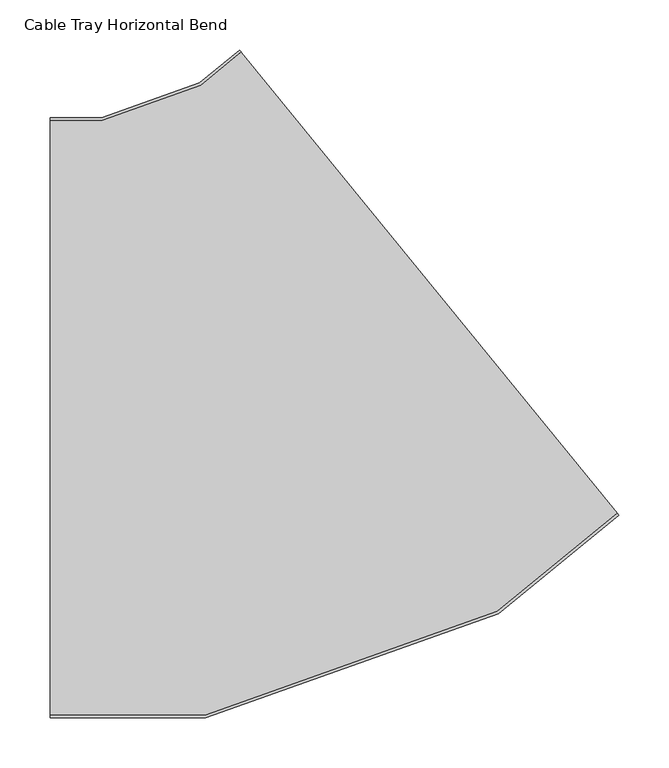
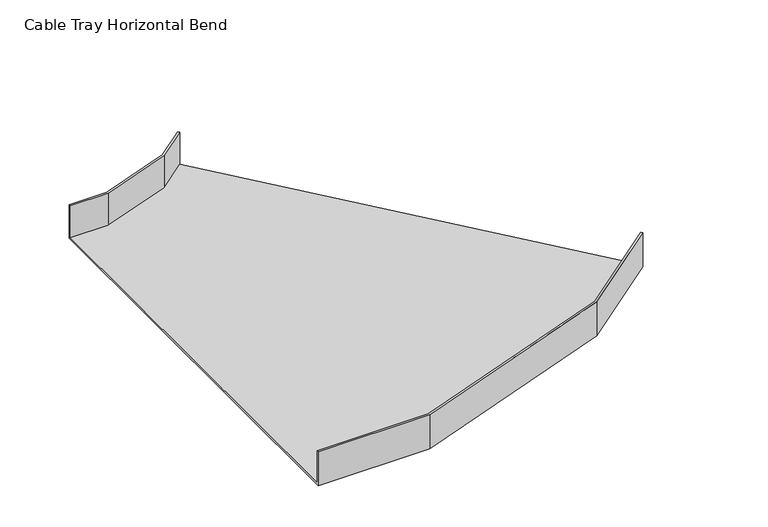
"""IFC4 building model written with IfcOpenShell, lengths in millimetres: cable carrier fitting geometry, Cable Tray Horizontal Bend : ELEC_SUB_CT_N2402."""

from ifc_helpers import new_model, si_unit, origin, place, context, project, spatial, faceted_brep, source, transform, mapped, element, save


def cable_tray_horizontal_bend_95bc2381(model_context):
    return source(origin(), model_context, "Body", "Brep", [
        faceted_brep([(-213.7355018, -300.0, -25.0), (-213.7355018, -300.0, 25.0), (-213.7355018, -297.46, 25.0), (-213.7355018, -297.46, -22.46), (-213.7355018, 297.46, -22.46), (-213.7355018, 297.46, 25.0), (-213.7355018, 300.0, 25.0), (-213.7355018, 300.0, -25.0), (355.2664502, -97.3068038, -25.0), (-24.0681844, 367.5643987, -25.0), (-24.0681844, 367.5643987, 25.0), (-22.4623345, 365.596444, 25.0), (-22.4623345, 365.596444, -22.46), (353.6606003, -95.3388491, -22.46), (353.6606003, -95.3388491, 25.0), (355.2664502, -97.3068038, 25.0), (-58.2201691, -300.0, -25.0), (-58.2201691, -300.0, 25.0), (234.7754507, -195.6273903, 25.0), (233.5096531, -193.381953, 25.0), (-58.6590679, -297.46, 25.0), (-58.6590679, -297.46, -22.46), (233.5096531, -193.381953, -22.46), (-62.9660534, 332.5454326, -22.46), (-161.4581587, 297.46, -22.46), (-161.4581587, 297.46, 25.0), (-62.9660534, 332.5454326, 25.0), (-64.231851, 334.7908699, 25.0), (-161.8970575, 300.0, 25.0), (-161.8970575, 300.0, -25.0), (-64.231851, 334.7908699, -25.0), (234.7754507, -195.6273903, -25.0)], [[[0, 1, 2, 3, 4, 5, 6, 7]], [[8, 9, 10, 11, 12, 13, 14, 15]], [[1, 0, 16, 17]], [[2, 1, 17, 18, 15, 14, 19, 20]], [[3, 2, 20, 21]], [[4, 3, 21, 22, 13, 12, 23, 24]], [[5, 4, 24, 25]], [[6, 5, 25, 26, 11, 10, 27, 28]], [[7, 6, 28, 29]], [[0, 7, 29, 30, 9, 8, 31, 16]], [[17, 16, 31, 18]], [[21, 20, 19, 22]], [[25, 24, 23, 26]], [[29, 28, 27, 30]], [[18, 31, 8, 15]], [[22, 19, 14, 13]], [[26, 23, 12, 11]], [[30, 27, 10, 9]]]),
    ])


if __name__ == "__main__":
    model = new_model("IFC4")
    model_context = context("Model", 3, world=origin())
    ifc_project = project(units=[si_unit("LENGTHUNIT", "METRE", prefix="MILLI")], contexts=[model_context])
    site = spatial("IfcSite", under=ifc_project)
    building = spatial("IfcBuilding", under=site)
    placement = place(None, origin())
    cable_tray_horizontal_bend_shape = cable_tray_horizontal_bend_95bc2381(model_context)
    element("IfcCableCarrierFitting", 1, ObjectType="Cable Tray Horizontal Bend : ELEC_SUB_CT_N2402", at=placement, inside=building, context=model_context, shape_type="MappedRepresentation", body=[
        mapped(cable_tray_horizontal_bend_shape, transform((0.0, 0.0, 0.0), x_axis=(1.0, 0.0, 0.0), y_axis=(0.0, 1.0, 0.0), z_axis=(0.0, 0.0, 1.0))),
    ])
    save(model, "model.ifc")
